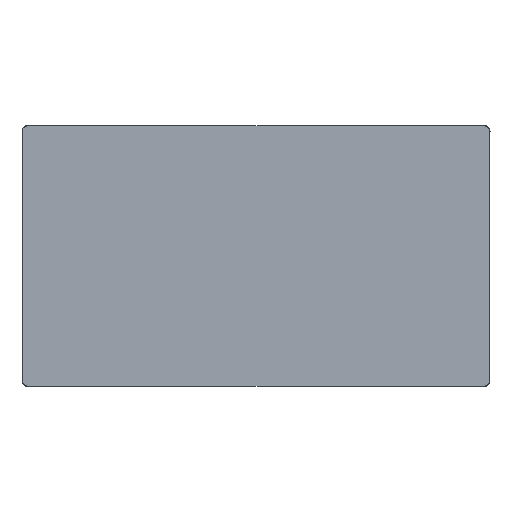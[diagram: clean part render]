
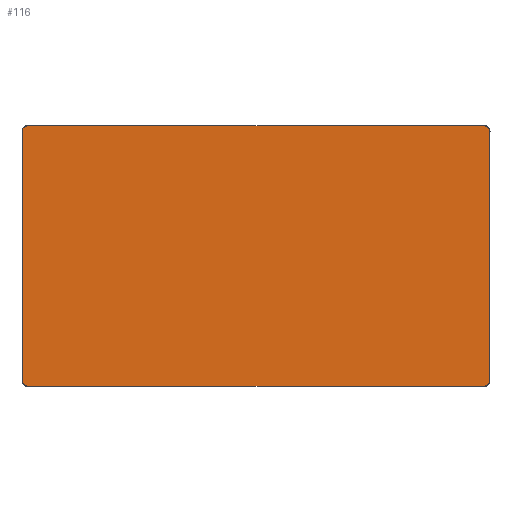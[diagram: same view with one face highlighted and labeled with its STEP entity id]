
A CAD part, top view. The second image highlights one B-rep face of the part: STEP entity #116.
In plain terms, the highlighted planar face has unit normal (0, 0, 1).
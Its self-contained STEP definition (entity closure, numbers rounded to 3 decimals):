
#116=ADVANCED_FACE('',(#443),#4782,.T.);
#443=FACE_OUTER_BOUND('',#771,.T.);
#771=EDGE_LOOP('',(#1226,#1227,#1228,#1229,#1230,#1231,#1232,#1233));
#1226=ORIENTED_EDGE('',*,*,#2665,.F.);
#1227=ORIENTED_EDGE('',*,*,#2631,.F.);
#1228=ORIENTED_EDGE('',*,*,#2658,.F.);
#1229=ORIENTED_EDGE('',*,*,#2629,.F.);
#1230=ORIENTED_EDGE('',*,*,#2643,.F.);
#1231=ORIENTED_EDGE('',*,*,#2630,.F.);
#1232=ORIENTED_EDGE('',*,*,#2634,.F.);
#1233=ORIENTED_EDGE('',*,*,#2628,.F.);
#2628=EDGE_CURVE('',#4098,#4099,#3768,.T.);
#2629=EDGE_CURVE('',#4100,#4101,#3769,.T.);
#2630=EDGE_CURVE('',#4102,#4103,#3770,.T.);
#2631=EDGE_CURVE('',#4105,#4104,#3771,.T.);
#2634=EDGE_CURVE('',#4099,#4102,#3338,.T.);
#2643=EDGE_CURVE('',#4103,#4100,#3347,.T.);
#2658=EDGE_CURVE('',#4101,#4105,#3362,.T.);
#2665=EDGE_CURVE('',#4104,#4098,#3369,.T.);
#3338=(
BOUNDED_CURVE()
B_SPLINE_CURVE(2,(#7082,#7083,#7084),.UNSPECIFIED.,.F.,.F.)
B_SPLINE_CURVE_WITH_KNOTS((3,3),(0.,29.845),
 .UNSPECIFIED.)
CURVE()
GEOMETRIC_REPRESENTATION_ITEM()
RATIONAL_B_SPLINE_CURVE((1.,0.707,1.))
REPRESENTATION_ITEM('')
);
#3347=(
BOUNDED_CURVE()
B_SPLINE_CURVE(2,(#7381,#7382,#7383),.UNSPECIFIED.,.F.,.F.)
B_SPLINE_CURVE_WITH_KNOTS((3,3),(0.,29.845),
 .UNSPECIFIED.)
CURVE()
GEOMETRIC_REPRESENTATION_ITEM()
RATIONAL_B_SPLINE_CURVE((1.,0.707,1.))
REPRESENTATION_ITEM('')
);
#3362=(
BOUNDED_CURVE()
B_SPLINE_CURVE(2,(#7742,#7743,#7744),.UNSPECIFIED.,.F.,.F.)
B_SPLINE_CURVE_WITH_KNOTS((3,3),(0.,29.845),
 .UNSPECIFIED.)
CURVE()
GEOMETRIC_REPRESENTATION_ITEM()
RATIONAL_B_SPLINE_CURVE((1.,0.707,1.))
REPRESENTATION_ITEM('')
);
#3369=(
BOUNDED_CURVE()
B_SPLINE_CURVE(2,(#8023,#8024,#8025),.UNSPECIFIED.,.F.,.F.)
B_SPLINE_CURVE_WITH_KNOTS((3,3),(0.,29.845),
 .UNSPECIFIED.)
CURVE()
GEOMETRIC_REPRESENTATION_ITEM()
RATIONAL_B_SPLINE_CURVE((1.,0.707,1.))
REPRESENTATION_ITEM('')
);
#3768=B_SPLINE_CURVE_WITH_KNOTS('',1,(#7066,#7067),.UNSPECIFIED.,.F.,.F.,
(2,2),(0.,1575.),.UNSPECIFIED.);
#3769=B_SPLINE_CURVE_WITH_KNOTS('',1,(#7068,#7069),.UNSPECIFIED.,.F.,.F.,
(2,2),(0.,1575.),.UNSPECIFIED.);
#3770=B_SPLINE_CURVE_WITH_KNOTS('',1,(#7070,#7071),.UNSPECIFIED.,.F.,.F.,
(2,2),(0.,860.),.UNSPECIFIED.);
#3771=B_SPLINE_CURVE_WITH_KNOTS('',1,(#7072,#7073),.UNSPECIFIED.,.F.,.F.,
(2,2),(0.,860.),.UNSPECIFIED.);
#4098=VERTEX_POINT('',#6918);
#4099=VERTEX_POINT('',#6919);
#4100=VERTEX_POINT('',#6920);
#4101=VERTEX_POINT('',#6921);
#4102=VERTEX_POINT('',#6922);
#4103=VERTEX_POINT('',#6923);
#4104=VERTEX_POINT('',#6924);
#4105=VERTEX_POINT('',#6925);
#4782=PLANE('',#4881);
#4881=AXIS2_PLACEMENT_3D('',#5813,#4963,$);
#4963=DIRECTION('',(0.,0.,1.));
#5813=CARTESIAN_POINT('',(-1983.778,1450.299,732.632));
#6918=CARTESIAN_POINT('',(-1802.278,2439.299,732.632));
#6919=CARTESIAN_POINT('',(-227.278,2439.299,732.632));
#6920=CARTESIAN_POINT('',(-227.278,1541.299,732.632));
#6921=CARTESIAN_POINT('',(-1802.278,1541.299,732.632));
#6922=CARTESIAN_POINT('',(-208.278,2420.299,732.632));
#6923=CARTESIAN_POINT('',(-208.278,1560.299,732.632));
#6924=CARTESIAN_POINT('',(-1821.278,2420.299,732.632));
#6925=CARTESIAN_POINT('',(-1821.278,1560.299,732.632));
#7066=CARTESIAN_POINT('',(-1802.278,2439.299,732.632));
#7067=CARTESIAN_POINT('',(-227.278,2439.299,732.632));
#7068=CARTESIAN_POINT('',(-227.278,1541.299,732.632));
#7069=CARTESIAN_POINT('',(-1802.278,1541.299,732.632));
#7070=CARTESIAN_POINT('',(-208.278,2420.299,732.632));
#7071=CARTESIAN_POINT('',(-208.278,1560.299,732.632));
#7072=CARTESIAN_POINT('',(-1821.278,1560.299,732.632));
#7073=CARTESIAN_POINT('',(-1821.278,2420.299,732.632));
#7082=CARTESIAN_POINT('',(-227.278,2439.299,732.632));
#7083=CARTESIAN_POINT('',(-208.278,2439.299,732.632));
#7084=CARTESIAN_POINT('',(-208.278,2420.299,732.632));
#7381=CARTESIAN_POINT('',(-208.278,1560.299,732.632));
#7382=CARTESIAN_POINT('',(-208.278,1541.299,732.632));
#7383=CARTESIAN_POINT('',(-227.278,1541.299,732.632));
#7742=CARTESIAN_POINT('',(-1802.278,1541.299,732.632));
#7743=CARTESIAN_POINT('',(-1821.278,1541.299,732.632));
#7744=CARTESIAN_POINT('',(-1821.278,1560.299,732.632));
#8023=CARTESIAN_POINT('',(-1821.278,2420.299,732.632));
#8024=CARTESIAN_POINT('',(-1821.278,2439.299,732.632));
#8025=CARTESIAN_POINT('',(-1802.278,2439.299,732.632));
